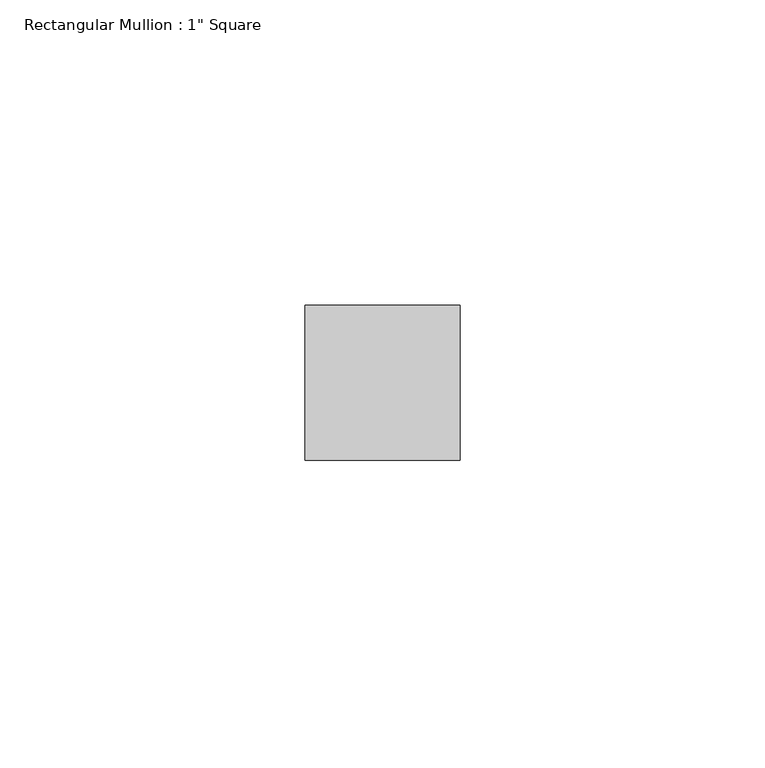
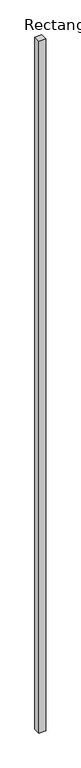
"""IFC4 building model written with IfcOpenShell, lengths in millimetres: member geometry."""

from ifc_helpers import new_model, si_unit, frame, origin, place, context, project, spatial, polyline, outline, extrude, source, transform, mapped, element, save


def member_980850ec(model_context):
    return source(origin(), model_context, "Body", "SweptSolid", [
        extrude(outline(polyline([(12.7, 12.7), (12.7, -12.7), (-12.7, -12.7), (-12.7, 12.7), (12.7, 12.7)])), frame((0.0, 0.0, -2718.0997833), z_axis=(0.0, 0.0, 1.0), x_axis=(1.0, 0.0, 0.0)), (0.0, 0.0, 1.0), 2718.0997833),
    ])


if __name__ == "__main__":
    model = new_model("IFC4")
    model_context = context("Model", 3, world=origin())
    ifc_project = project(units=[si_unit("LENGTHUNIT", "METRE", prefix="MILLI")], contexts=[model_context])
    site = spatial("IfcSite", under=ifc_project)
    building = spatial("IfcBuilding", under=site)
    placement = place(None, origin())
    member_shape = member_980850ec(model_context)
    element("IfcMember", 1, ObjectType="Rectangular Mullion : 1\" Square", at=placement, inside=building, context=model_context, shape_type="MappedRepresentation", body=[
        mapped(member_shape, transform((0.0, 0.0, 0.0), x_axis=(1.0, 0.0, 0.0), y_axis=(0.0, 1.0, 0.0), z_axis=(0.0, 0.0, 1.0))),
    ])
    save(model, "model.ifc")
